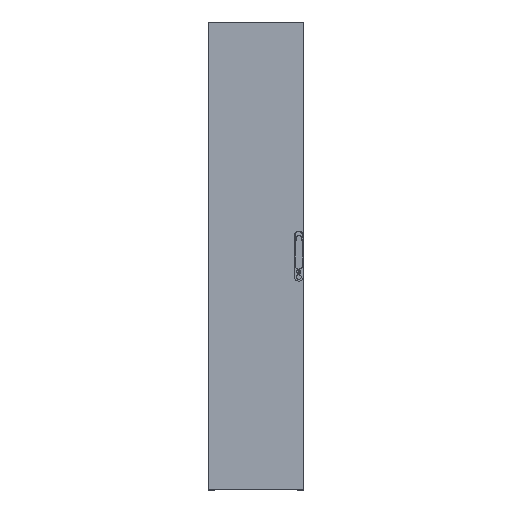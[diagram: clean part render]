
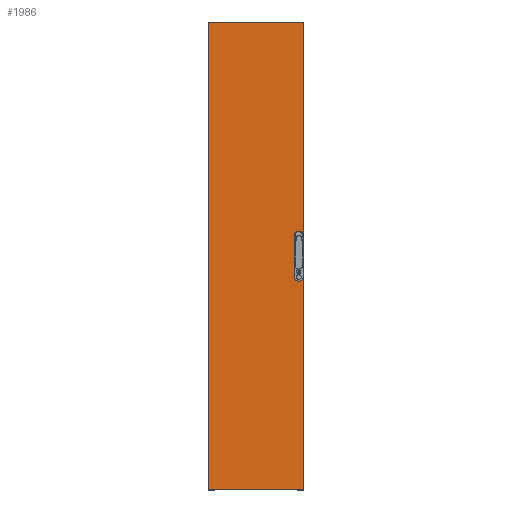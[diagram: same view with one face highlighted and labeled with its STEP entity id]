
A CAD part, top view. The second image highlights one B-rep face of the part: STEP entity #1986.
In plain terms, the highlighted planar face has unit normal (0, 0, 1).
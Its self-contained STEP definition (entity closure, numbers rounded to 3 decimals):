
#817=DIRECTION('',(1.,0.,0.));
#818=VECTOR('',#817,394.);
#819=CARTESIAN_POINT('',(0.,0.,37.2));
#820=LINE('',#819,#818);
#824=DIRECTION('',(0.,-1.,0.));
#825=VECTOR('',#824,1925.);
#826=CARTESIAN_POINT('',(0.,1925.,37.2));
#827=LINE('',#826,#825);
#831=DIRECTION('',(-1.,0.,0.));
#832=VECTOR('',#831,394.);
#833=CARTESIAN_POINT('',(394.,1925.,37.2));
#834=LINE('',#833,#832);
#838=DIRECTION('',(0.,1.,0.));
#839=VECTOR('',#838,1925.);
#840=CARTESIAN_POINT('',(394.,0.,37.2));
#841=LINE('',#840,#839);
#845=DIRECTION('',(-0.134,0.991,0.));
#846=VECTOR('',#845,39.104);
#847=CARTESIAN_POINT('',(386.,1019.5,37.2));
#848=LINE('',#847,#846);
#852=DIRECTION('',(-1.,0.,0.));
#853=VECTOR('',#852,16.5);
#854=CARTESIAN_POINT('',(380.75,1058.25,37.2));
#855=LINE('',#854,#853);
#859=DIRECTION('',(-0.134,-0.991,0.));
#860=VECTOR('',#859,39.104);
#861=CARTESIAN_POINT('',(364.25,1058.25,37.2));
#862=LINE('',#861,#860);
#866=DIRECTION('',(0.,-1.,0.));
#867=VECTOR('',#866,114.);
#868=CARTESIAN_POINT('',(359.,1019.5,37.2));
#869=LINE('',#868,#867);
#873=DIRECTION('',(0.134,-0.991,0.));
#874=VECTOR('',#873,39.104);
#875=CARTESIAN_POINT('',(359.,905.5,37.2));
#876=LINE('',#875,#874);
#880=DIRECTION('',(1.,0.,0.));
#881=VECTOR('',#880,16.5);
#882=CARTESIAN_POINT('',(364.25,866.75,37.2));
#883=LINE('',#882,#881);
#887=DIRECTION('',(0.134,0.991,0.));
#888=VECTOR('',#887,39.104);
#889=CARTESIAN_POINT('',(380.75,866.75,37.2));
#890=LINE('',#889,#888);
#894=DIRECTION('',(0.,1.,0.));
#895=VECTOR('',#894,114.);
#896=CARTESIAN_POINT('',(386.,905.5,37.2));
#897=LINE('',#896,#895);
#1171=CARTESIAN_POINT('',(0.,0.,37.2));
#1172=CARTESIAN_POINT('',(394.,0.,37.2));
#1173=VERTEX_POINT('',#1171);
#1174=VERTEX_POINT('',#1172);
#1175=CARTESIAN_POINT('',(394.,1925.,37.2));
#1176=VERTEX_POINT('',#1175);
#1177=CARTESIAN_POINT('',(0.,1925.,37.2));
#1178=VERTEX_POINT('',#1177);
#1183=CARTESIAN_POINT('',(386.,1019.5,37.2));
#1184=CARTESIAN_POINT('',(380.75,1058.25,37.2));
#1185=VERTEX_POINT('',#1183);
#1186=VERTEX_POINT('',#1184);
#1187=CARTESIAN_POINT('',(364.25,1058.25,37.2));
#1188=VERTEX_POINT('',#1187);
#1189=CARTESIAN_POINT('',(359.,1019.5,37.2));
#1190=VERTEX_POINT('',#1189);
#1191=CARTESIAN_POINT('',(359.,905.5,37.2));
#1192=VERTEX_POINT('',#1191);
#1193=CARTESIAN_POINT('',(364.25,866.75,37.2));
#1194=VERTEX_POINT('',#1193);
#1195=CARTESIAN_POINT('',(380.75,866.75,37.2));
#1196=VERTEX_POINT('',#1195);
#1197=CARTESIAN_POINT('',(386.,905.5,37.2));
#1198=VERTEX_POINT('',#1197);
#1956=CARTESIAN_POINT('',(0.,0.,37.2));
#1957=DIRECTION('',(0.,0.,1.));
#1958=DIRECTION('',(1.,0.,0.));
#1959=AXIS2_PLACEMENT_3D('',#1956,#1957,#1958);
#1960=PLANE('',#1959);
#1961=ORIENTED_EDGE('',*,*,#1850,.F.);
#1963=ORIENTED_EDGE('',*,*,#1962,.F.);
#1964=ORIENTED_EDGE('',*,*,#1911,.F.);
#1965=ORIENTED_EDGE('',*,*,#1950,.F.);
#1966=EDGE_LOOP('',(#1961,#1963,#1964,#1965));
#1967=FACE_OUTER_BOUND('',#1966,.F.);
#1969=ORIENTED_EDGE('',*,*,#1968,.T.);
#1971=ORIENTED_EDGE('',*,*,#1970,.T.);
#1973=ORIENTED_EDGE('',*,*,#1972,.T.);
#1975=ORIENTED_EDGE('',*,*,#1974,.T.);
#1977=ORIENTED_EDGE('',*,*,#1976,.T.);
#1979=ORIENTED_EDGE('',*,*,#1978,.T.);
#1981=ORIENTED_EDGE('',*,*,#1980,.T.);
#1983=ORIENTED_EDGE('',*,*,#1982,.T.);
#1984=EDGE_LOOP('',(#1969,#1971,#1973,#1975,#1977,#1979,#1981,#1983));
#1985=FACE_BOUND('',#1984,.F.);
#1850=EDGE_CURVE('',#1173,#1174,#820,.T.);
#1911=EDGE_CURVE('',#1176,#1178,#834,.T.);
#1950=EDGE_CURVE('',#1174,#1176,#841,.T.);
#1962=EDGE_CURVE('',#1178,#1173,#827,.T.);
#1968=EDGE_CURVE('',#1185,#1186,#848,.T.);
#1970=EDGE_CURVE('',#1186,#1188,#855,.T.);
#1972=EDGE_CURVE('',#1188,#1190,#862,.T.);
#1974=EDGE_CURVE('',#1190,#1192,#869,.T.);
#1976=EDGE_CURVE('',#1192,#1194,#876,.T.);
#1978=EDGE_CURVE('',#1194,#1196,#883,.T.);
#1980=EDGE_CURVE('',#1196,#1198,#890,.T.);
#1982=EDGE_CURVE('',#1198,#1185,#897,.T.);
#1986=ADVANCED_FACE('',(#1967,#1985),#1960,.T.);
